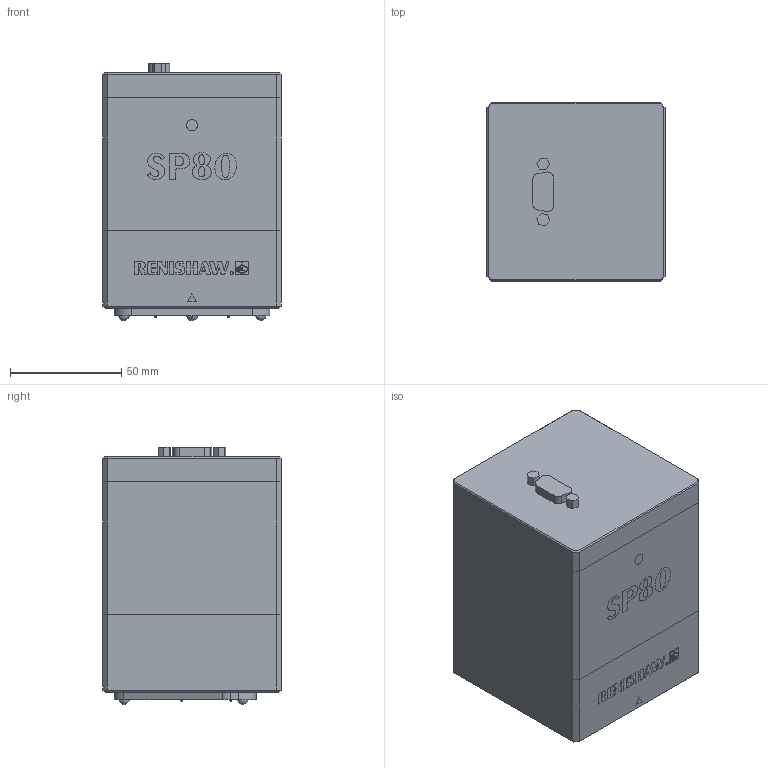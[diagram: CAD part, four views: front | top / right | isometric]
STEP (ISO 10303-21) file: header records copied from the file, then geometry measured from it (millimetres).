
FILE_DESCRIPTION(/* description */ (''),/* implementation_level */ '2;1');
FILE_NAME(/* name */ 'LA-2238-0150#-F.stp',/* time_stamp */ '2012-09-07T09:02:54+01:00',/* author */ (''),/* organization */ (''),/* preprocessor_version */ 'ST-DEVELOPER v11',/* originating_system */ 'SIEMENS PLM Software NX 7.5',/* authorisation */ '');
FILE_SCHEMA (('AUTOMOTIVE_DESIGN { 1 0 10303 214 1 1 1 1 }'));
Length unit declared in the file: millimetre
Products named in the file (1): rt13371Ayuw2
Bounding box: 80 x 80 x 115.53 mm (x, y, z)
Volume: 686538.8 mm3; surface area: 47048.8 mm2
Topology: 1 solids, 1 shells, 123 faces, 428 edges, 346 vertices
Faces by surface type: plane 101, cylinder 14, bspline 5, sphere 3
Full cylindrical faces by diameter (mm): 0.89 x3, 8.1 x1
Entity records: 5839 total; most frequent: CARTESIAN_POINT 1361, ORIENTED_EDGE 816, DIRECTION 605, EDGE_CURVE 408, VERTEX_POINT 336, LINE 257, VECTOR 257, AXIS2_PLACEMENT_3D 174
